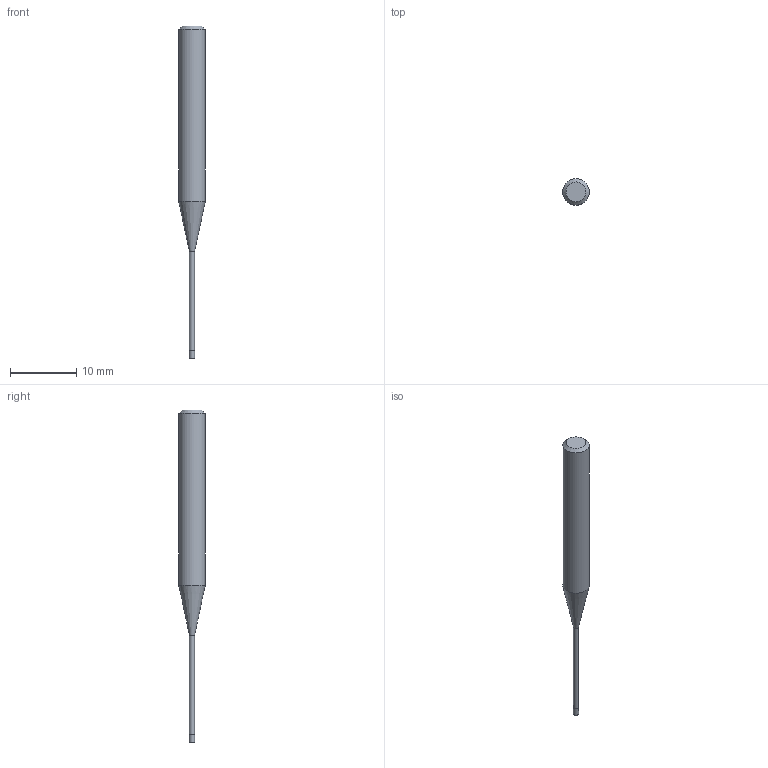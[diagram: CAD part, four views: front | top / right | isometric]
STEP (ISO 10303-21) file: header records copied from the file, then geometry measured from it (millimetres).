
FILE_DESCRIPTION((''),'2;1');
FILE_NAME('C:\Users\nsx150\AppData\Local\Temp\Mastercam 2021\17T8Q8S9EB\TEMP.step','2021-04-21T14:25:26',(''),(''),'STEP Write','Mastercam 2021 ... CNC Software, Inc.','');
FILE_SCHEMA(('AUTOMOTIVE_DESIGN'));
Length unit declared in the file: millimetre
Products named in the file (1): None
Bounding box: 4 x 4 x 50 mm (x, y, z)
Volume: 376.5 mm3; surface area: 438.1 mm2
Topology: 2 solids, 2 shells, 9 faces, 12 edges, 7 vertices
Faces by surface type: plane 4, cylinder 3, cone 2
Full cylindrical faces by diameter (mm): 0.76 x1, 0.8 x1, 4 x1
Entity records: 211 total; most frequent: DIRECTION 36, CARTESIAN_POINT 25, AXIS2_PLACEMENT_3D 18, ORIENTED_EDGE 14, EDGE_LOOP 14, STYLED_ITEM 12, ADVANCED_FACE 9, FACE_BOUND 8
